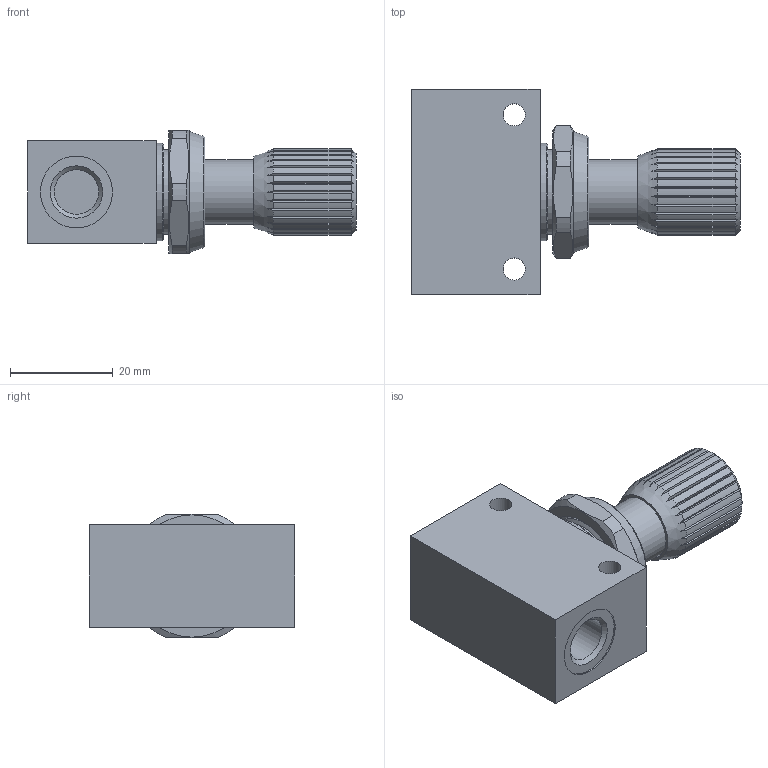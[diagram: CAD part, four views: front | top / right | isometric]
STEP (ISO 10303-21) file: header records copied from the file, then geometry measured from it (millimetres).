
FILE_DESCRIPTION(/* description */ (''),/* implementation_level */ '2;1');
FILE_NAME(/* name */ 'I:\Area Tecnica\Disegni\VARIE-3D\Componenti\600\6_01_18-###\6_01_18-4.stp',/* time_stamp */ '2017-01-04T08:26:18+01:00',/* author */ ('maniean1'),/* organization */ (''),/* preprocessor_version */ 'ST-DEVELOPER v15.2',/* originating_system */ 'Autodesk Inventor 2014',/* authorisation */ '');
FILE_SCHEMA (('AUTOMOTIVE_DESIGN { 1 0 10303 214 3 1 1 }'));
Length unit declared in the file: millimetre
Products named in the file (3): 6_01_18-4-5(A); 6_01_18#_(B); 6_01_18-4
Bounding box: 64 x 40 x 24 mm (x, y, z)
Volume: 26316.9 mm3; surface area: 9819.9 mm2
Topology: 3 solids, 3 shells, 148 faces, 388 edges, 255 vertices
Faces by surface type: plane 85, cylinder 49, cone 13, torus 1
Full cylindrical faces by diameter (mm): 4.3 x2, 8.68 x2, 12.5 x1, 13 x1, 14 x2, 16.5 x1, 17 x1, 18 x1, 19 x1, 19.5 x1
Entity records: 4467 total; most frequent: CARTESIAN_POINT 1025, ORIENTED_EDGE 714, DIRECTION 642, EDGE_CURVE 357, AXIS2_PLACEMENT_3D 264, VERTEX_POINT 251, EDGE_LOOP 190, ADVANCED_FACE 148
